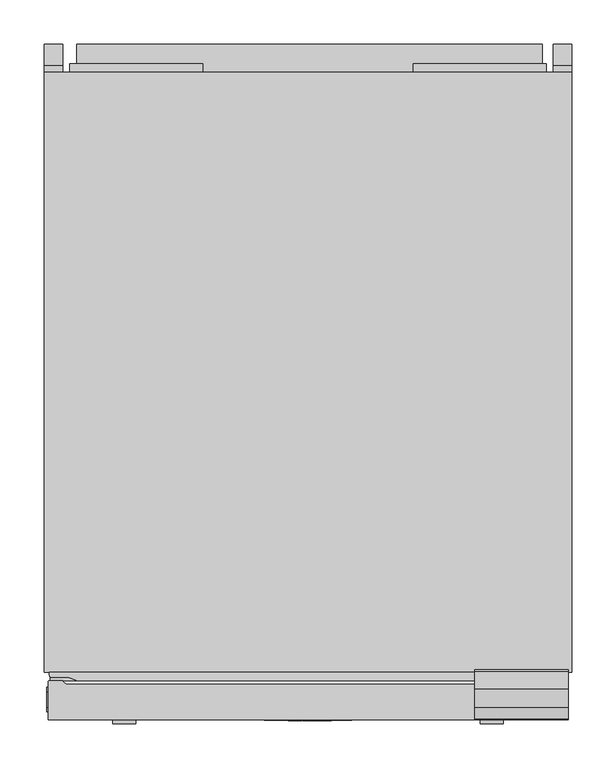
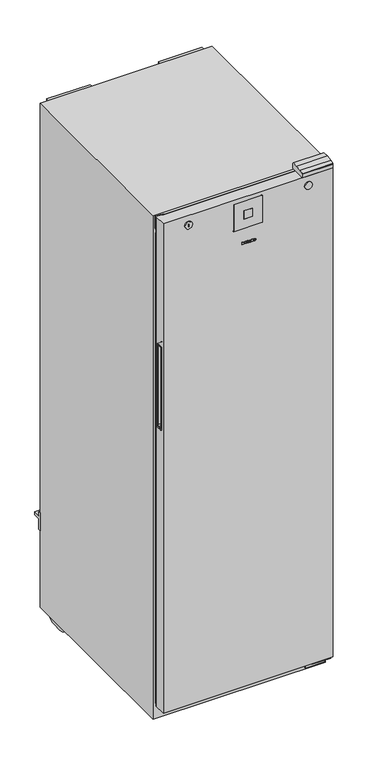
"""IFC4 building model written with IfcOpenShell, lengths in millimetres: proxy geometry, 12537610_OER_KWT4584E_OBSW : 39458451_OER_12537610_KWT4584E_OBSW."""

from ifc_helpers import new_model, si_unit, point, frame, frame_2d, origin, origin_with_axes, place, context, project, spatial, polyline, circle_curve, ellipse_curve, trimmed, segment, composite_curve, outline, extrude, faceted_brep, source, transform, mapped, element, save
from ifc_brep_helpers import plane_surface, cylinder_surface, revolved_surface, extruded_surface, advanced_brep


def specialty_equipment_61aea310(model_context):
    return source(origin(), model_context, "Body", "SolidModel", [
        advanced_brep(
        [(21.288016, -765.8, 1692.896), (21.288016, -765.8, 1693.704), (26.640016, -765.8, 1693.704), (17.328016, -765.8, 1693.704), (19.528016, -765.8, 1691.0), (26.504016, -765.8, 1692.896), (24.088016, -765.8, 1692.896), (22.184016, -765.8, 1692.0), (21.288016, -765.8, 1694.728), (21.288016, -765.8, 1695.6), (22.656016, -765.8, 1695.6), (22.656016, -765.8, 1694.728), (21.288016, -764.8, 1692.896), (22.184016, -764.8, 1692.0), (24.088016, -764.8, 1692.896), (26.504016, -764.8, 1692.896), (19.528016, -764.8, 1691.0), (17.328016, -764.8, 1693.704), (26.640016, -764.8, 1693.704), (21.288016, -764.8, 1693.704), (21.288016, -764.8, 1694.728), (22.656016, -764.8, 1694.728), (22.656016, -764.8, 1695.6), (21.288016, -764.8, 1695.6)],
        [
            (0, 1),
            (1, 2),
            (2, 3, ellipse_curve(frame((21.984016, -765.8, 1693.704), z_axis=(0.0, -1.0, 0.0), x_axis=(-1.0, 0.0, 0.0)), 4.656, 3.848)),
            (3, 4, circle_curve(frame((20.4240596, -765.8, 1693.976), z_axis=(0.0, -1.0, 0.0), x_axis=(0.0, 0.0, -1.0)), 3.1079688)),
            (4, 5, circle_curve(frame((21.8908096, -765.8, 1696.088), z_axis=(0.0, -1.0, 0.0), x_axis=(0.0, 0.0, -1.0)), 5.6098607)),
            (5, 6),
            (6, 7, circle_curve(frame((22.5750748, -765.8, 1693.64), z_axis=(0.0, 1.0, 0.0), x_axis=(0.0, 0.0, -1.0)), 1.6859795)),
            (7, 0, circle_curve(frame((22.184016, -765.8, 1692.896), z_axis=(0.0, 1.0, 0.0), x_axis=(0.0, 0.0, -1.0)), 0.896)),
            (8, 9),
            (9, 10, circle_curve(frame((21.972016, -765.8, 1695.6), z_axis=(0.0, 1.0, 0.0), x_axis=(0.0, 0.0, -1.0)), 0.684)),
            (10, 11),
            (11, 8),
            (12, 13, circle_curve(frame((22.184016, -764.8, 1692.896), z_axis=(0.0, -1.0, 0.0), x_axis=(0.0, 0.0, -1.0)), 0.896)),
            (13, 14, circle_curve(frame((22.5750748, -764.8, 1693.64), z_axis=(0.0, -1.0, 0.0), x_axis=(0.0, 0.0, -1.0)), 1.6859795)),
            (14, 15),
            (15, 16, circle_curve(frame((21.8908096, -764.8, 1696.088), z_axis=(0.0, 1.0, 0.0), x_axis=(0.0, 0.0, -1.0)), 5.6098607)),
            (16, 17, circle_curve(frame((20.4240596, -764.8, 1693.976), z_axis=(0.0, 1.0, 0.0), x_axis=(0.0, 0.0, -1.0)), 3.1079688)),
            (17, 18, ellipse_curve(frame((21.984016, -764.8, 1693.704), z_axis=(0.0, 1.0, 0.0), x_axis=(-1.0, 0.0, 0.0)), 4.656, 3.848)),
            (18, 19),
            (19, 12),
            (20, 21),
            (21, 22),
            (22, 23, circle_curve(frame((21.972016, -764.8, 1695.6), z_axis=(0.0, -1.0, 0.0), x_axis=(0.0, 0.0, -1.0)), 0.684)),
            (23, 20),
            (0, 12),
            (19, 1),
            (18, 2),
            (5, 15),
            (14, 6),
            (17, 3),
            (13, 7),
            (16, 4),
            (8, 20),
            (23, 9),
            (22, 10),
            (21, 11),
        ],
        [
            plane_surface(frame((21.288016, -765.8, 1693.704), z_axis=(0.0, -1.0, 0.0), x_axis=(0.0, 0.0, 1.0))),
            plane_surface(frame((21.288016, -764.8, 1693.704), z_axis=(0.0, 1.0, 0.0), x_axis=(0.0, 0.0, -1.0))),
            plane_surface(frame((21.288016, -765.8, 1692.896), z_axis=(1.0, 0.0, 0.0), x_axis=(0.0, 1.0, 0.0))),
            plane_surface(frame((21.288016, -765.8, 1693.704), z_axis=(0.0, 0.0, -1.0), x_axis=(0.0, 1.0, 0.0))),
            plane_surface(frame((26.504016, -765.8, 1692.896), z_axis=(0.0, 0.0, 1.0), x_axis=(0.0, 1.0, 0.0))),
            extruded_surface(trimmed(ellipse_curve(frame((21.984016, -763.8, 1693.704), z_axis=(0.0, -1.0, 0.0), x_axis=(-1.0, 0.0, 0.0)), 4.656, 3.848), [point((26.640016, -763.8, 1693.704))], [point((17.328016, -763.8, 1693.704))], True, "CARTESIAN"), (0.0, -1.0, 0.0), 1.0),
            revolved_surface(polyline([(22.5750748, -764.8, 1691.9540205), (22.5750748, -765.8, 1691.9540205)]), (22.5750748, -764.8, 1693.64), (0.0, 1.0, 0.0)),
            revolved_surface(polyline([(22.184016, -764.8, 1692.0), (22.184016, -765.8, 1692.0)]), (22.184016, -764.8, 1692.896), (0.0, 1.0, 0.0)),
            cylinder_surface(frame((20.4240596, -764.8, 1693.976), z_axis=(0.0, -1.0, 0.0), x_axis=(0.0, 0.0, -1.0)), 3.1079688),
            cylinder_surface(frame((21.8908096, -764.8, 1696.088), z_axis=(0.0, -1.0, 0.0), x_axis=(0.0, 0.0, -1.0)), 5.6098607),
            plane_surface(frame((21.288016, -765.8, 1694.728), z_axis=(1.0, 0.0, 0.0), x_axis=(0.0, 1.0, 0.0))),
            revolved_surface(polyline([(21.972016, -764.8, 1694.916), (21.972016, -765.8, 1694.916)]), (21.972016, -764.8, 1695.6), (0.0, 1.0, 0.0)),
            plane_surface(frame((22.656016, -765.8, 1695.6), z_axis=(-1.0, 0.0, 0.0), x_axis=(0.0, 1.0, 0.0))),
            plane_surface(frame((22.656016, -765.8, 1694.728), z_axis=(0.0, 0.0, 1.0), x_axis=(0.0, 1.0, 0.0))),
        ],
        [
            (0, [[1, 2, 3, 4, 5, 6, 7, 8], [9, 10, 11, 12]]),
            (1, [[13, 14, 15, 16, 17, 18, 19, 20], [21, 22, 23, 24]]),
            (2, [[-1, 25, -20, 26]]),
            (3, [[-2, -26, -19, 27]]),
            (4, [[-6, 28, -15, 29]]),
            (5, [[-3, -27, -18, 30]]),
            (6, [[-7, -29, -14, 31]]),
            (7, [[-8, -31, -13, -25]]),
            (8, [[-4, -30, -17, 32]]),
            (9, [[-5, -32, -16, -28]]),
            (10, [[-9, 33, -24, 34]]),
            (11, [[-10, -34, -23, 35]]),
            (12, [[-11, -35, -22, 36]]),
            (13, [[-12, -36, -21, -33]]),
        ],
    ),
        advanced_brep(
        [(4.592016, -765.8, 1692.896), (4.592016, -765.8, 1693.704), (9.944016, -765.8, 1693.704), (0.632016, -765.8, 1693.704), (2.832016, -765.8, 1691.0), (9.808016, -765.8, 1692.896), (7.392016, -765.8, 1692.896), (5.488016, -765.8, 1692.0), (4.592016, -765.8, 1694.728), (4.592016, -765.8, 1695.6), (5.960016, -765.8, 1695.6), (5.960016, -765.8, 1694.728), (4.592016, -764.8, 1692.896), (5.488016, -764.8, 1692.0), (7.392016, -764.8, 1692.896), (9.808016, -764.8, 1692.896), (2.832016, -764.8, 1691.0), (0.632016, -764.8, 1693.704), (9.944016, -764.8, 1693.704), (4.592016, -764.8, 1693.704), (4.592016, -764.8, 1694.728), (5.960016, -764.8, 1694.728), (5.960016, -764.8, 1695.6), (4.592016, -764.8, 1695.6)],
        [
            (0, 1),
            (1, 2),
            (2, 3, ellipse_curve(frame((5.288016, -765.8, 1693.704), z_axis=(0.0, -1.0, 0.0), x_axis=(-1.0, 0.0, 0.0)), 4.656, 3.848)),
            (3, 4, circle_curve(frame((3.7280596, -765.8, 1693.976), z_axis=(0.0, -1.0, 0.0), x_axis=(0.0, 0.0, -1.0)), 3.1079688)),
            (4, 5, circle_curve(frame((5.1948096, -765.8, 1696.088), z_axis=(0.0, -1.0, 0.0), x_axis=(0.0, 0.0, -1.0)), 5.6098607)),
            (5, 6),
            (6, 7, circle_curve(frame((5.8790748, -765.8, 1693.64), z_axis=(0.0, 1.0, 0.0), x_axis=(0.0, 0.0, -1.0)), 1.6859795)),
            (7, 0, circle_curve(frame((5.488016, -765.8, 1692.896), z_axis=(0.0, 1.0, 0.0), x_axis=(0.0, 0.0, -1.0)), 0.896)),
            (8, 9),
            (9, 10, circle_curve(frame((5.276016, -765.8, 1695.6), z_axis=(0.0, 1.0, 0.0), x_axis=(0.0, 0.0, -1.0)), 0.684)),
            (10, 11),
            (11, 8),
            (12, 13, circle_curve(frame((5.488016, -764.8, 1692.896), z_axis=(0.0, -1.0, 0.0), x_axis=(0.0, 0.0, -1.0)), 0.896)),
            (13, 14, circle_curve(frame((5.8790748, -764.8, 1693.64), z_axis=(0.0, -1.0, 0.0), x_axis=(0.0, 0.0, -1.0)), 1.6859795)),
            (14, 15),
            (15, 16, circle_curve(frame((5.1948096, -764.8, 1696.088), z_axis=(0.0, 1.0, 0.0), x_axis=(0.0, 0.0, -1.0)), 5.6098607)),
            (16, 17, circle_curve(frame((3.7280596, -764.8, 1693.976), z_axis=(0.0, 1.0, 0.0), x_axis=(0.0, 0.0, -1.0)), 3.1079688)),
            (17, 18, ellipse_curve(frame((5.288016, -764.8, 1693.704), z_axis=(0.0, 1.0, 0.0), x_axis=(-1.0, 0.0, 0.0)), 4.656, 3.848)),
            (18, 19),
            (19, 12),
            (20, 21),
            (21, 22),
            (22, 23, circle_curve(frame((5.276016, -764.8, 1695.6), z_axis=(0.0, -1.0, 0.0), x_axis=(0.0, 0.0, -1.0)), 0.684)),
            (23, 20),
            (0, 12),
            (19, 1),
            (18, 2),
            (5, 15),
            (14, 6),
            (17, 3),
            (13, 7),
            (16, 4),
            (8, 20),
            (23, 9),
            (22, 10),
            (21, 11),
        ],
        [
            plane_surface(frame((4.592016, -765.8, 1693.704), z_axis=(0.0, -1.0, 0.0), x_axis=(0.0, 0.0, 1.0))),
            plane_surface(frame((4.592016, -764.8, 1693.704), z_axis=(0.0, 1.0, 0.0), x_axis=(0.0, 0.0, -1.0))),
            plane_surface(frame((4.592016, -765.8, 1692.896), z_axis=(1.0, 0.0, 0.0), x_axis=(0.0, 1.0, 0.0))),
            plane_surface(frame((4.592016, -765.8, 1693.704), z_axis=(0.0, 0.0, -1.0), x_axis=(0.0, 1.0, 0.0))),
            plane_surface(frame((9.808016, -765.8, 1692.896), z_axis=(0.0, 0.0, 1.0), x_axis=(0.0, 1.0, 0.0))),
            extruded_surface(trimmed(ellipse_curve(frame((5.288016, -763.8, 1693.704), z_axis=(0.0, -1.0, 0.0), x_axis=(-1.0, 0.0, 0.0)), 4.656, 3.848), [point((9.944016, -763.8, 1693.704))], [point((0.632016, -763.8, 1693.704))], True, "CARTESIAN"), (0.0, -1.0, 0.0), 1.0),
            revolved_surface(polyline([(5.8790748, -764.8, 1691.9540205), (5.8790748, -765.8, 1691.9540205)]), (5.8790748, -764.8, 1693.64), (0.0, 1.0, 0.0)),
            revolved_surface(polyline([(5.488016, -764.8, 1692.0), (5.488016, -765.8, 1692.0)]), (5.488016, -764.8, 1692.896), (0.0, 1.0, 0.0)),
            cylinder_surface(frame((3.7280596, -764.8, 1693.976), z_axis=(0.0, -1.0, 0.0), x_axis=(0.0, 0.0, -1.0)), 3.1079688),
            cylinder_surface(frame((5.1948096, -764.8, 1696.088), z_axis=(0.0, -1.0, 0.0), x_axis=(0.0, 0.0, -1.0)), 5.6098607),
            plane_surface(frame((4.592016, -765.8, 1694.728), z_axis=(1.0, 0.0, 0.0), x_axis=(0.0, 1.0, 0.0))),
            revolved_surface(polyline([(5.276016, -764.8, 1694.916), (5.276016, -765.8, 1694.916)]), (5.276016, -764.8, 1695.6), (0.0, 1.0, 0.0)),
            plane_surface(frame((5.960016, -765.8, 1695.6), z_axis=(-1.0, 0.0, 0.0), x_axis=(0.0, 1.0, 0.0))),
            plane_surface(frame((5.960016, -765.8, 1694.728), z_axis=(0.0, 0.0, 1.0), x_axis=(0.0, 1.0, 0.0))),
        ],
        [
            (0, [[1, 2, 3, 4, 5, 6, 7, 8], [9, 10, 11, 12]]),
            (1, [[13, 14, 15, 16, 17, 18, 19, 20], [21, 22, 23, 24]]),
            (2, [[-1, 25, -20, 26]]),
            (3, [[-2, -26, -19, 27]]),
            (4, [[-6, 28, -15, 29]]),
            (5, [[-3, -27, -18, 30]]),
            (6, [[-7, -29, -14, 31]]),
            (7, [[-8, -31, -13, -25]]),
            (8, [[-4, -30, -17, 32]]),
            (9, [[-5, -32, -16, -28]]),
            (10, [[-9, 33, -24, 34]]),
            (11, [[-10, -34, -23, 35]]),
            (12, [[-11, -35, -22, 36]]),
            (13, [[-12, -36, -21, -33]]),
        ],
    ),
        extrude(outline(polyline([(1698.528, -4.151984), (1697.232, -3.543984), (1698.496, -0.831984), (1699.792, -1.431984), (1698.528, -4.151984)])), frame((0.0, -765.8, 0.0), z_axis=(0.0, 1.0, 0.0), x_axis=(0.0, 0.0, 1.0)), (0.0, 0.0, 1.0), 1.0),
        extrude(outline(polyline([(1697.056, -6.127984), (1695.624, -6.127984), (1695.624, -5.175984), (1692.344, -5.175984), (1692.344, -6.127984), (1691.0, -6.127984), (1691.0, 0.184016), (1692.344, 0.184016), (1692.344, -0.743984), (1697.056, -0.743984), (1697.056, -6.127984)])), frame((0.0, -765.8, 0.0), z_axis=(0.0, 1.0, 0.0), x_axis=(0.0, 0.0, 1.0)), (0.0, 0.0, 1.0), 1.0),
        extrude(outline(polyline([(1697.696, 10.392016), (1697.696, 11.352016), (1692.344, 11.352016), (1692.344, 10.392016), (1691.0, 10.392016), (1691.0, 16.880016), (1692.344, 16.880016), (1692.344, 15.896016), (1699.0, 15.896016), (1699.0, 10.392016), (1697.696, 10.392016)])), frame((0.0, -765.8, 0.0), z_axis=(0.0, 1.0, 0.0), x_axis=(0.0, 0.0, 1.0)), (0.0, 0.0, 1.0), 1.0),
        extrude(outline(polyline([(1697.696, -22.071984), (1697.696, -21.103984), (1692.344, -21.103984), (1692.344, -22.071984), (1691.0, -22.071984), (1691.0, -18.551984), (1692.344, -18.551984), (1692.344, -19.511984), (1695.7471247, -19.511984), (1691.0, -15.935984), (1695.8152223, -12.343984), (1692.344, -12.343984), (1692.344, -13.327984), (1691.0, -13.327984), (1691.0, -6.943984), (1692.344, -6.943984), (1692.344, -7.959984), (1697.696, -7.959984), (1697.696, -6.943984), (1699.0, -6.943984), (1699.0, -11.815984), (1696.0, -14.151984), (1699.0, -16.495984), (1699.0, -22.071984), (1697.696, -22.071984)])), frame((0.0, -765.8, 0.0), z_axis=(0.0, 1.0, 0.0), x_axis=(0.0, 0.0, 1.0)), (0.0, 0.0, 1.0), 1.0),
        extrude(outline(composite_curve([segment(polyline([(260.3303025, -720.2869385), (-260.3238209, -720.2869385)]), True, "CONTINUOUS"), segment(trimmed(circle_curve(frame_2d((-260.44591, -714.3630875)), 5.9251089), [point((-260.3238209, -720.2869385))], [point((-262.4708007, -719.9314566))], False, "CARTESIAN"), True, "CONTINUOUS"), segment(polyline([(-262.4708007, -719.9314566), (-271.5667859, -716.6237776)]), True, "CONTINUOUS"), segment(trimmed(circle_curve(frame_2d((-273.2756141, -721.3229876)), 5.0002667), [point((-271.5667859, -716.6237776))], [point((-273.2756141, -716.3227208))], True, "CARTESIAN"), True, "CONTINUOUS"), segment(polyline([(-273.2756141, -716.3227208), (-290.5040257, -716.3227208)]), True, "CONTINUOUS"), segment(trimmed(circle_curve(frame_2d((-290.5040257, -714.3174705)), 2.0052503), [point((-290.5040257, -716.3227208))], [point((-292.509276, -714.3174705))], False, "CARTESIAN"), True, "CONTINUOUS"), segment(polyline([(-292.509276, -714.3174705), (-292.509276, -710.8), (292.509276, -710.8), (292.509276, -714.3756553)]), True, "CONTINUOUS"), segment(trimmed(circle_curve(frame_2d((290.5363621, -714.3756553)), 1.9729139), [point((292.509276, -714.3756553))], [point((290.3912088, -716.3432223))], False, "CARTESIAN"), True, "CONTINUOUS"), segment(polyline([(290.3912088, -716.3432223), (285.9802856, -716.0942743), (267.1795756, -718.180628), (262.3907072, -719.9236335)]), True, "CONTINUOUS"), segment(trimmed(circle_curve(frame_2d((260.3303025, -714.2627182)), 6.0242203), [point((262.3907072, -719.9236335))], [point((260.3303025, -720.2869385))], False, "CARTESIAN"), True, "CONTINUOUS")], self_intersect=False)), frame((0.0, 0.0, 1811.9923609), z_axis=(0.0, 0.0, 1.0), x_axis=(1.0, 0.0, 0.0)), (0.0, 0.0, 1.0), 49.0076391),
        extrude(outline(composite_curve([segment(polyline([(-174.7039849, 85.0), (-84.7744034, 85.0), (-84.7744034, 10.0)]), True, "CONTINUOUS"), segment(trimmed(circle_curve(frame_2d((-112.4685723, 43.3483493)), 43.3483493), [point((-84.7744034, 10.0))], [point((-112.4685723, 0.0))], False, "CARTESIAN"), True, "CONTINUOUS"), segment(polyline([(-112.4685723, 0.0), (-146.8130598, 0.0)]), True, "CONTINUOUS"), segment(trimmed(circle_curve(frame_2d((-146.8130598, 43.8951852)), 43.8951852), [point((-146.8130598, 0.0))], [point((-174.7039849, 10.0))], False, "CARTESIAN"), True, "CONTINUOUS"), segment(polyline([(-174.7039849, 10.0), (-174.7039849, 85.0)]), True, "CONTINUOUS")], self_intersect=False)), frame((-296.748385, 0.0, 0.0), z_axis=(1.0, 0.0, 0.0), x_axis=(0.0, 1.0, 0.0)), (0.0, 0.0, 1.0), 26.1483484),
        extrude(outline(composite_curve([segment(polyline([(-174.7039849, 85.0), (-84.7744034, 85.0), (-84.7744034, 10.0)]), True, "CONTINUOUS"), segment(trimmed(circle_curve(frame_2d((-112.4685723, 43.3483493)), 43.3483493), [point((-84.7744034, 10.0))], [point((-112.4685723, 0.0))], False, "CARTESIAN"), True, "CONTINUOUS"), segment(polyline([(-112.4685723, 0.0), (-146.8130598, 0.0)]), True, "CONTINUOUS"), segment(trimmed(circle_curve(frame_2d((-146.8130598, 43.8951852)), 43.8951852), [point((-146.8130598, 0.0))], [point((-174.7039849, 10.0))], False, "CARTESIAN"), True, "CONTINUOUS"), segment(polyline([(-174.7039849, 10.0), (-174.7039849, 85.0)]), True, "CONTINUOUS")], self_intersect=False)), frame((270.6000366, 0.0, 0.0), z_axis=(1.0, 0.0, 0.0), x_axis=(0.0, 1.0, 0.0)), (0.0, 0.0, 1.0), 26.1483484),
        extrude(outline(polyline([(-24.2050924, 295.6199469), (-32.0, 295.6199469), (-32.0, 359.9980469), (-24.2050924, 359.9980469), (-24.2050924, 344.8226935), (0.0, 344.8226935), (0.0, 334.8226935), (-24.2050924, 334.8226935), (-24.2050924, 295.6199469)])), frame((-298.5, 0.0, 0.0), z_axis=(1.0, 0.0, 0.0), x_axis=(0.0, 1.0, 0.0)), (0.0, 0.0, 1.0), 20.9682617),
        extrude(outline(polyline([(-24.2050924, 295.6199469), (-32.0, 295.6199469), (-32.0, 359.9980469), (-24.2050924, 359.9980469), (-24.2050924, 344.8226935), (0.0, 344.8226935), (0.0, 334.8226935), (-24.2050924, 334.8226935), (-24.2050924, 295.6199469)])), frame((277.5317383, 0.0, 0.0), z_axis=(1.0, 0.0, 0.0), x_axis=(0.0, 1.0, 0.0)), (0.0, 0.0, 1.0), 20.9682617),
        faceted_brep([(298.5, -32.0, 1861.0), (-298.5, -32.0, 1861.0), (-298.5, -710.8, 1861.0), (298.5, -710.8, 1861.0), (298.5, -32.0, 15.0), (298.5, -710.8, 15.0), (-298.5, -710.8, 15.0), (-298.5, -32.0, 15.0), (-238.5, -710.8, 1771.4289551), (238.5, -710.8, 1771.4289551), (238.5, -710.8, 89.0), (-238.5, -710.8, 89.0), (238.5, -83.343928, 1771.4289551), (-238.5, -83.343928, 1771.4289551), (-238.5, -83.343928, 89.0), (238.5, -83.343928, 89.0)], [[[0, 1, 2, 3]], [[4, 5, 6, 7]], [[1, 0, 4, 7]], [[2, 1, 7, 6]], [[3, 2, 6, 5], [8, 9, 10, 11]], [[0, 3, 5, 4]], [[12, 13, 14, 15]], [[13, 12, 9, 8]], [[14, 13, 8, 11]], [[15, 14, 11, 10]], [[12, 15, 10, 9]]]),
        extrude(outline(polyline([(265.1, -32.0), (-261.7, -32.0), (-261.7, 0.0), (265.1, 0.0), (265.1, -32.0)])), frame((0.0, 0.0, 311.4613342), z_axis=(0.0, 0.0, 1.0), x_axis=(1.0, 0.0, 0.0)), (0.0, 0.0, 1.0), 1260.9136658),
        extrude(outline(composite_curve([segment(trimmed(circle_curve(frame_2d((238.5, -673.3)), 12.0), [point((226.5, -673.3))], [point((250.5, -673.3))], False, "CARTESIAN"), True, "CONTINUOUS"), segment(trimmed(circle_curve(frame_2d((238.5, -673.3)), 12.0), [point((250.5, -673.3))], [point((226.5, -673.3))], False, "CARTESIAN"), True, "CONTINUOUS")], self_intersect=False)), origin_with_axes(), (0.0, 0.0, 1.0), 4.8499999),
        extrude(outline(composite_curve([segment(trimmed(circle_curve(frame_2d((-238.5, -673.3)), 12.0), [point((-250.5, -673.3))], [point((-226.5, -673.3))], False, "CARTESIAN"), True, "CONTINUOUS"), segment(trimmed(circle_curve(frame_2d((-238.5, -673.3)), 12.0), [point((-226.5, -673.3))], [point((-250.5, -673.3))], False, "CARTESIAN"), True, "CONTINUOUS")], self_intersect=False)), origin_with_axes(), (0.0, 0.0, 1.0), 4.8499999),
        extrude(outline(composite_curve([segment(trimmed(circle_curve(frame_2d((238.5, -673.3)), 6.5052807), [point((231.9947193, -673.3))], [point((245.0052807, -673.3))], False, "CARTESIAN"), True, "CONTINUOUS"), segment(trimmed(circle_curve(frame_2d((238.5, -673.3)), 6.5052807), [point((245.0052807, -673.3))], [point((231.9947193, -673.3))], False, "CARTESIAN"), True, "CONTINUOUS")], self_intersect=False)), frame((0.0, 0.0, 4.8499999), z_axis=(0.0, 0.0, 1.0), x_axis=(1.0, 0.0, 0.0)), (0.0, 0.0, 1.0), 10.1500001),
        extrude(outline(composite_curve([segment(trimmed(circle_curve(frame_2d((-238.5, -673.3)), 6.5052807), [point((-245.0052807, -673.3))], [point((-231.9947193, -673.3))], False, "CARTESIAN"), True, "CONTINUOUS"), segment(trimmed(circle_curve(frame_2d((-238.5, -673.3)), 6.5052807), [point((-231.9947193, -673.3))], [point((-245.0052807, -673.3))], False, "CARTESIAN"), True, "CONTINUOUS")], self_intersect=False)), frame((0.0, 0.0, 4.8499999), z_axis=(0.0, 0.0, 1.0), x_axis=(1.0, 0.0, 0.0)), (0.0, 0.0, 1.0), 10.1500001),
        extrude(outline(composite_curve([segment(polyline([(-77.4661946, 15.0), (-54.5459203, 15.0)]), True, "CONTINUOUS"), segment(trimmed(circle_curve(frame_2d((-66.0060575, 21.8267301)), 13.3393773), [point((-54.5459203, 15.0))], [point((-77.4661946, 15.0))], False, "CARTESIAN"), True, "CONTINUOUS")], self_intersect=False)), frame((214.5, 0.0, 0.0), z_axis=(1.0, 0.0, 0.0), x_axis=(0.0, 1.0, 0.0)), (0.0, 0.0, 1.0), 23.0),
        extrude(outline(composite_curve([segment(polyline([(-77.4661946, 15.0), (-54.5459203, 15.0)]), True, "CONTINUOUS"), segment(trimmed(circle_curve(frame_2d((-66.0060575, 21.8267301)), 13.3393773), [point((-54.5459203, 15.0))], [point((-77.4661946, 15.0))], False, "CARTESIAN"), True, "CONTINUOUS")], self_intersect=False)), frame((-237.5, 0.0, 0.0), z_axis=(1.0, 0.0, 0.0), x_axis=(0.0, 1.0, 0.0)), (0.0, 0.0, 1.0), 23.0),
        extrude(outline(polyline([(-118.8940533, -32.0), (-269.5, -32.0), (-269.5, -21.9869385), (-118.8940533, -21.9869385), (-118.8940533, -32.0)])), frame((0.0, 0.0, 1819.3465251), z_axis=(0.0, 0.0, 1.0), x_axis=(1.0, 0.0, 0.0)), (0.0, 0.0, 1.0), 41.6534749),
        extrude(outline(polyline([(269.5, -32.0), (118.8940533, -32.0), (118.8940533, -21.9869385), (269.5, -21.9869385), (269.5, -32.0)])), frame((0.0, 0.0, 1819.3465251), z_axis=(0.0, 0.0, 1.0), x_axis=(1.0, 0.0, 0.0)), (0.0, 0.0, 1.0), 41.6534749),
        extrude(outline(polyline([(143.6302282, 242.4018082), (151.666733, 242.4018082), (151.666733, 236.6255704), (150.6621699, 236.6255704), (150.6621699, 241.3972451), (148.2763325, 241.3972451), (148.2763325, 236.8767112), (147.2717694, 236.8767112), (147.2717694, 241.3972451), (144.6347913, 241.3972451), (144.6347913, 236.5), (143.6302282, 236.5), (143.6302282, 242.4018082)])), frame((0.0, -2.0, 0.0), z_axis=(0.0, 1.0, 0.0), x_axis=(0.0, 0.0, 1.0)), (0.0, 0.0, 1.0), 1.0),
        extrude(outline(polyline([(143.6302282, 234.9931553), (151.666733, 234.9931553), (151.666733, 233.9885922), (144.6347913, 233.9885922), (144.6347913, 229.9703398), (143.6302282, 229.9703398), (143.6302282, 234.9931553)])), frame((0.0, -2.0, 0.0), z_axis=(0.0, 1.0, 0.0), x_axis=(0.0, 0.0, 1.0)), (0.0, 0.0, 1.0), 1.0),
        extrude(outline(composite_curve([segment(trimmed(circle_curve(frame_2d((147.612854, 236.5)), 8.0), [point((147.612854, 228.5))], [point((147.612854, 244.5))], False, "CARTESIAN"), True, "CONTINUOUS"), segment(trimmed(circle_curve(frame_2d((147.612854, 236.5)), 8.0), [point((147.612854, 244.5))], [point((147.612854, 228.5))], False, "CARTESIAN"), True, "CONTINUOUS")], self_intersect=False)), frame((0.0, -32.0, 0.0), z_axis=(0.0, 1.0, 0.0), x_axis=(0.0, 0.0, 1.0)), (0.0, 0.0, 1.0), 30.0),
        extrude(outline(composite_curve([segment(trimmed(circle_curve(frame_2d((-750.2778084, 1103.581665)), 5.0), [point((-750.2778084, 1098.581665))], [point((-755.2778084, 1103.581665))], False, "CARTESIAN"), True, "CONTINUOUS"), segment(polyline([(-755.2778084, 1103.581665), (-755.2778084, 1398.6172446)]), True, "CONTINUOUS"), segment(trimmed(circle_curve(frame_2d((-750.2778084, 1398.6172446)), 5.0), [point((-755.2778084, 1398.6172446))], [point((-750.2778084, 1403.6172446))], False, "CARTESIAN"), True, "CONTINUOUS"), segment(polyline([(-750.2778084, 1403.6172446), (-732.5520859, 1403.6172446)]), True, "CONTINUOUS"), segment(trimmed(circle_curve(frame_2d((-732.5520859, 1398.6172446)), 5.0), [point((-732.5520859, 1403.6172446))], [point((-727.5520859, 1398.6172446))], False, "CARTESIAN"), True, "CONTINUOUS"), segment(polyline([(-727.5520859, 1398.6172446), (-727.5520859, 1103.581665)]), True, "CONTINUOUS"), segment(trimmed(circle_curve(frame_2d((-732.5520859, 1103.581665)), 5.0), [point((-727.5520859, 1103.581665))], [point((-732.5520859, 1098.581665))], False, "CARTESIAN"), True, "CONTINUOUS"), segment(polyline([(-732.5520859, 1098.581665), (-750.2778084, 1098.581665)]), True, "CONTINUOUS")], self_intersect=False), holes=[polyline([(-750.2651496, 1399.5537109), (-750.2651496, 1102.581665), (-732.5520859, 1102.581665), (-732.5520859, 1399.5537109), (-750.2651496, 1399.5537109)])]), frame((-295.5000916, 0.0, 0.0), z_axis=(1.0, 0.0, 0.0), x_axis=(0.0, 1.0, 0.0)), (0.0, 0.0, 1.0), 1.5000916),
        extrude(outline(polyline([(-754.065255, 59.0), (-754.065255, 64.0), (-721.7521934, 64.0), (-713.9740176, 60.7781754), (-710.8, 53.1154163), (-710.8, 21.3999996), (-715.752192, 21.3999996), (-715.752192, 53.0), (-717.509551, 57.2426414), (-721.7521915, 59.0), (-754.065255, 59.0)])), frame((227.0, 0.0, 0.0), z_axis=(1.0, 0.0, 0.0), x_axis=(0.0, 1.0, 0.0)), (0.0, 0.0, 1.0), 66.0),
        extrude(outline(polyline([(14.9572484, -764.8), (-15.0427516, -764.8), (-15.0427516, -760.810437), (14.9572484, -760.810437), (14.9572484, -764.8)])), frame((0.0, 0.0, 1782.0721304), z_axis=(0.0, 0.0, 1.0), x_axis=(1.0, 0.0, 0.0)), (0.0, 0.0, 1.0), 30.0),
        extrude(outline(composite_curve([segment(polyline([(1846.7674561, 48.6999969), (1846.7674561, -48.7000046)]), True, "CONTINUOUS"), segment(trimmed(circle_curve(frame_2d((1845.7674561, -48.7000046)), 1.0), [point((1846.7674561, -48.7000046))], [point((1845.7674561, -49.7000046))], False, "CARTESIAN"), True, "CONTINUOUS"), segment(polyline([(1845.7674561, -49.7000046), (1748.3675537, -49.7000046)]), True, "CONTINUOUS"), segment(trimmed(circle_curve(frame_2d((1748.3675537, -48.7000046)), 1.0), [point((1748.3675537, -49.7000046))], [point((1747.3675537, -48.7000046))], False, "CARTESIAN"), True, "CONTINUOUS"), segment(polyline([(1747.3675537, -48.7000046), (1747.3675537, 48.6999969)]), True, "CONTINUOUS"), segment(trimmed(circle_curve(frame_2d((1748.3675537, 48.6999969)), 1.0), [point((1747.3675537, 48.6999969))], [point((1748.3675537, 49.6999969))], False, "CARTESIAN"), True, "CONTINUOUS"), segment(polyline([(1748.3675537, 49.6999969), (1845.7674561, 49.6999969)]), True, "CONTINUOUS"), segment(trimmed(circle_curve(frame_2d((1845.7674561, 48.6999969)), 1.0), [point((1845.7674561, 49.6999969))], [point((1846.7674561, 48.6999969))], False, "CARTESIAN"), True, "CONTINUOUS")], self_intersect=False), holes=[polyline([(1782.0721304, 14.9572484), (1782.0721304, -15.0427516), (1812.0721304, -15.0427516), (1812.0721304, 14.9572484), (1782.0721304, 14.9572484)])]), frame((0.0, -764.8, 0.0), z_axis=(0.0, 1.0, 0.0), x_axis=(0.0, 0.0, 1.0)), (0.0, 0.0, 1.0), 3.989563),
        extrude(outline(composite_curve([segment(trimmed(circle_curve(frame_2d((278.1342421, -743.3588504)), 12.036577), [point((266.0976651, -743.3588504))], [point((290.1708191, -743.3588504))], False, "CARTESIAN"), True, "CONTINUOUS"), segment(trimmed(circle_curve(frame_2d((278.1342421, -743.3588504)), 12.036577), [point((290.1708191, -743.3588504))], [point((266.0976651, -743.3588504))], False, "CARTESIAN"), True, "CONTINUOUS")], self_intersect=False)), frame((0.0, 0.0, 64.0), z_axis=(0.0, 0.0, 1.0), x_axis=(1.0, 0.0, 0.0)), (0.0, 0.0, 1.0), 5.0),
        extrude(outline(polyline([(-764.8, 1861.9999756), (-764.8, 1874.3047493), (-763.284946, 1876.6290621), (-750.3336628, 1880.7289483), (-729.4521961, 1883.5), (-709.7315334, 1883.5), (-708.0521952, 1881.1846963), (-708.0521952, 1861.9999756), (-764.8, 1861.9999756)])), frame((188.6006191, 0.0, 0.0), z_axis=(1.0, 0.0, 0.0), x_axis=(0.0, 1.0, 0.0)), (0.0, 0.0, 1.0), 106.122831),
        advanced_brep(
        [(294.0, -764.8, 1861.9999756), (294.0, -721.7869385, 1861.9999756), (292.5, -720.2869385, 1861.9999756), (278.5456807, -720.2869385, 1861.9999756), (277.2728238, -720.814173, 1861.9999756), (273.8000584, -724.2869385, 1861.9999756), (-273.8000584, -724.2869385, 1861.9999756), (-277.2728238, -720.814173, 1861.9999756), (-278.5456807, -720.2869385, 1861.9999756), (-292.5, -720.2869385, 1861.9999756), (-294.0, -721.7869385, 1861.9999756), (-294.0, -764.8, 1861.9999756), (294.0, -764.8, 69.0), (-294.0, -764.8, 69.0), (-294.0, -721.7869385, 69.0), (-292.5, -720.2869385, 69.0), (-278.5456807, -720.2869385, 69.0), (-277.2728238, -720.814173, 69.0), (-273.8000584, -724.2869385, 69.0), (273.8000584, -724.2869385, 69.0), (277.2728238, -720.814173, 69.0), (278.5456807, -720.2869385, 69.0), (292.5, -720.2869385, 69.0), (294.0, -721.7869385, 69.0), (-294.0, -755.2651489, 1398.544651), (-294.0, -755.2651489, 1103.581665), (-294.0, -750.2651489, 1098.581665), (-294.0, -732.3192405, 1098.581665), (-294.0, -727.3192405, 1103.581665), (-294.0, -727.3192405, 1398.544651), (-294.0, -732.3192405, 1403.544651), (-294.0, -750.2651489, 1403.544651), (-48.7000046, -764.8, 1846.7674561), (48.6999969, -764.8, 1846.7674561), (49.6999969, -764.8, 1845.7674561), (49.6999969, -764.8, 1748.3675537), (48.6999969, -764.8, 1747.3675537), (-48.7000046, -764.8, 1747.3675537), (-49.7000046, -764.8, 1748.3675537), (-49.7000046, -764.8, 1845.7674561), (48.6999969, -760.810437, 1846.7674561), (-48.7000046, -760.810437, 1846.7674561), (-49.7000046, -760.810437, 1845.7674561), (-49.7000046, -760.810437, 1748.3675537), (-48.7000046, -760.810437, 1747.3675537), (48.6999969, -760.810437, 1747.3675537), (49.6999969, -760.810437, 1748.3675537), (49.6999969, -760.810437, 1845.7674561), (-277.9342299, -750.2651489, 1403.544651), (-277.9342299, -732.3192405, 1403.544651), (-277.9342299, -727.3192405, 1398.544651), (-277.9342299, -727.3192405, 1103.581665), (-277.9342299, -732.3192405, 1098.581665), (-277.9342299, -750.2651489, 1098.581665), (-277.9342299, -755.2651489, 1103.581665), (-277.9342299, -755.2651489, 1398.544651)],
        [
            (0, 1),
            (1, 2, circle_curve(frame((292.5, -721.7869385, 1861.9999756), z_axis=(0.0, 0.0, 1.0), x_axis=(1.0, 0.0, 0.0)), 1.5)),
            (2, 3),
            (3, 4, circle_curve(frame((278.5456807, -722.0870299, 1861.9999756), z_axis=(0.0, 0.0, 1.0), x_axis=(1.0, 0.0, 0.0)), 1.8000914)),
            (4, 5),
            (5, 6),
            (6, 7),
            (7, 8, circle_curve(frame((-278.5456807, -722.0870299, 1861.9999756), z_axis=(0.0, 0.0, 1.0), x_axis=(1.0, 0.0, 0.0)), 1.8000914)),
            (8, 9),
            (9, 10, circle_curve(frame((-292.5, -721.7869385, 1861.9999756), z_axis=(0.0, 0.0, 1.0), x_axis=(1.0, 0.0, 0.0)), 1.5)),
            (10, 11),
            (11, 0),
            (12, 13),
            (13, 14),
            (14, 15, circle_curve(frame((-292.5, -721.7869385, 69.0), z_axis=(0.0, 0.0, -1.0), x_axis=(1.0, 0.0, 0.0)), 1.5)),
            (15, 16),
            (16, 17, circle_curve(frame((-278.5456807, -722.0870299, 69.0), z_axis=(0.0, 0.0, -1.0), x_axis=(1.0, 0.0, 0.0)), 1.8000914)),
            (17, 18),
            (18, 19),
            (19, 20),
            (20, 21, circle_curve(frame((278.5456807, -722.0870299, 69.0), z_axis=(0.0, 0.0, -1.0), x_axis=(1.0, 0.0, 0.0)), 1.8000914)),
            (21, 22),
            (22, 23, circle_curve(frame((292.5, -721.7869385, 69.0), z_axis=(0.0, 0.0, -1.0), x_axis=(1.0, 0.0, 0.0)), 1.5)),
            (23, 12),
            (0, 12),
            (23, 1),
            (22, 2),
            (21, 3),
            (20, 4),
            (19, 5),
            (18, 6),
            (17, 7),
            (16, 8),
            (15, 9),
            (14, 10),
            (13, 11),
            (24, 25),
            (25, 26, circle_curve(frame((-294.0, -750.2651489, 1103.581665), z_axis=(1.0, 0.0, 0.0), x_axis=(0.0, 1.0, 0.0)), 5.0)),
            (26, 27),
            (27, 28, circle_curve(frame((-294.0, -732.3192405, 1103.581665), z_axis=(1.0, 0.0, 0.0), x_axis=(0.0, 1.0, 0.0)), 5.0)),
            (28, 29),
            (29, 30, circle_curve(frame((-294.0, -732.3192405, 1398.544651), z_axis=(1.0, 0.0, 0.0), x_axis=(0.0, 1.0, 0.0)), 5.0)),
            (30, 31),
            (31, 24, circle_curve(frame((-294.0, -750.2651489, 1398.544651), z_axis=(1.0, 0.0, 0.0), x_axis=(0.0, 1.0, 0.0)), 5.0)),
            (32, 33),
            (33, 34, circle_curve(frame((48.6999969, -764.8, 1845.7674561), z_axis=(0.0, 1.0, 0.0), x_axis=(1.0, 0.0, 0.0)), 1.0)),
            (34, 35),
            (35, 36, circle_curve(frame((48.6999969, -764.8, 1748.3675537), z_axis=(0.0, 1.0, 0.0), x_axis=(1.0, 0.0, 0.0)), 1.0)),
            (36, 37),
            (37, 38, circle_curve(frame((-48.7000046, -764.8, 1748.3675537), z_axis=(0.0, 1.0, 0.0), x_axis=(1.0, 0.0, 0.0)), 1.0)),
            (38, 39),
            (39, 32, circle_curve(frame((-48.7000046, -764.8, 1845.7674561), z_axis=(0.0, 1.0, 0.0), x_axis=(1.0, 0.0, 0.0)), 1.0)),
            (40, 41),
            (41, 42, circle_curve(frame((-48.7000046, -760.810437, 1845.7674561), z_axis=(0.0, -1.0, 0.0), x_axis=(1.0, 0.0, 0.0)), 1.0)),
            (42, 43),
            (43, 44, circle_curve(frame((-48.7000046, -760.810437, 1748.3675537), z_axis=(0.0, -1.0, 0.0), x_axis=(1.0, 0.0, 0.0)), 1.0)),
            (44, 45),
            (45, 46, circle_curve(frame((48.6999969, -760.810437, 1748.3675537), z_axis=(0.0, -1.0, 0.0), x_axis=(1.0, 0.0, 0.0)), 1.0)),
            (46, 47),
            (47, 40, circle_curve(frame((48.6999969, -760.810437, 1845.7674561), z_axis=(0.0, -1.0, 0.0), x_axis=(1.0, 0.0, 0.0)), 1.0)),
            (40, 33),
            (32, 41),
            (42, 39),
            (38, 43),
            (44, 37),
            (36, 45),
            (46, 35),
            (34, 47),
            (48, 49),
            (49, 50, circle_curve(frame((-277.9342299, -732.3192405, 1398.544651), z_axis=(-1.0, 0.0, 0.0), x_axis=(0.0, 1.0, 0.0)), 5.0)),
            (50, 51),
            (51, 52, circle_curve(frame((-277.9342299, -732.3192405, 1103.581665), z_axis=(-1.0, 0.0, 0.0), x_axis=(0.0, 1.0, 0.0)), 5.0)),
            (52, 53),
            (53, 54, circle_curve(frame((-277.9342299, -750.2651489, 1103.581665), z_axis=(-1.0, 0.0, 0.0), x_axis=(0.0, 1.0, 0.0)), 5.0)),
            (54, 55),
            (55, 48, circle_curve(frame((-277.9342299, -750.2651489, 1398.544651), z_axis=(-1.0, 0.0, 0.0), x_axis=(0.0, 1.0, 0.0)), 5.0)),
            (54, 25),
            (24, 55),
            (52, 27),
            (26, 53),
            (50, 29),
            (28, 51),
            (48, 31),
            (30, 49),
        ],
        [
            plane_surface(frame((294.0, -764.8, 1861.9999756), z_axis=(0.0, 0.0, 1.0), x_axis=(0.0, 1.0, 0.0))),
            plane_surface(frame((294.0, -764.8, 69.0), z_axis=(0.0, 0.0, -1.0), x_axis=(0.0, -1.0, 0.0))),
            plane_surface(frame((294.0, -764.8, 1861.9999756), z_axis=(1.0, 0.0, 0.0), x_axis=(0.0, 0.0, -1.0))),
            cylinder_surface(frame((292.5, -721.7869385, 69.0), z_axis=(0.0, 0.0, 1.0), x_axis=(1.0, 0.0, 0.0)), 1.5),
            plane_surface(frame((292.5, -720.2869385, 1861.9999756), z_axis=(-1.5229168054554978e-12, 1.0, 0.0), x_axis=(0.0, 0.0, -1.0))),
            cylinder_surface(frame((278.5456807, -722.0870299, 69.0), z_axis=(0.0, 0.0, 1.0), x_axis=(1.0, 0.0, 0.0)), 1.8000914),
            plane_surface(frame((277.2728238, -720.814173, 1861.9999756), z_axis=(-0.7071067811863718, 0.7071067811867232, 0.0), x_axis=(0.0, 0.0, -1.0))),
            plane_surface(frame((273.8000584, -724.2869385, 1861.9999756), z_axis=(0.0, 1.0, 0.0), x_axis=(0.0, 0.0, -1.0))),
            plane_surface(frame((-273.8000584, -724.2869385, 1861.9999756), z_axis=(0.7071067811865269, 0.7071067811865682, 0.0), x_axis=(0.0, 0.0, -1.0))),
            cylinder_surface(frame((-278.5456807, -722.0870299, 69.0), z_axis=(0.0, 0.0, 1.0), x_axis=(1.0, 0.0, 0.0)), 1.8000914),
            plane_surface(frame((-278.5456807, -720.2869385, 1861.9999756), z_axis=(0.0, 1.0, 0.0), x_axis=(0.0, 0.0, -1.0))),
            cylinder_surface(frame((-292.5, -721.7869385, 69.0), z_axis=(0.0, 0.0, 1.0), x_axis=(1.0, 0.0, 0.0)), 1.5),
            plane_surface(frame((-294.0, -721.7869385, 1861.9999756), z_axis=(-1.0, 0.0, 0.0), x_axis=(0.0, 0.0, -1.0))),
            plane_surface(frame((-294.0, -764.8, 1861.9999756), z_axis=(0.0, -1.0, 0.0), x_axis=(0.0, 0.0, -1.0))),
            plane_surface(frame((-48.7000046, -760.810437, 1846.7674561), z_axis=(0.0, -1.0, 0.0), x_axis=(1.0, 0.0, 0.0))),
            plane_surface(frame((48.6999969, -781.8498952, 1846.7674561), z_axis=(0.0, 0.0, -1.0), x_axis=(0.0, 1.0, 0.0))),
            plane_surface(frame((-49.7000046, -781.8498952, 1845.7674561), z_axis=(1.0, 0.0, 0.0), x_axis=(0.0, 1.0, 0.0))),
            plane_surface(frame((-48.7000046, -781.8498952, 1747.3675537), z_axis=(0.0, 0.0, 1.0), x_axis=(0.0, 1.0, 0.0))),
            plane_surface(frame((49.6999969, -781.8498952, 1748.3675537), z_axis=(-1.0, 0.0, 0.0), x_axis=(0.0, 1.0, 0.0))),
            revolved_surface(polyline([(-47.7000046, -764.8, 1845.7674561), (-47.7000046, -760.810437, 1845.7674561)]), (-48.7000046, -760.810437, 1845.7674561), (0.0, -1.0, 0.0)),
            revolved_surface(polyline([(-47.7000046, -764.8, 1748.3675537), (-47.7000046, -760.810437, 1748.3675537)]), (-48.7000046, -760.810437, 1748.3675537), (0.0, -1.0, 0.0)),
            revolved_surface(polyline([(49.6999969, -764.8, 1748.3675537), (49.6999969, -760.810437, 1748.3675537)]), (48.6999969, -760.810437, 1748.3675537), (0.0, -1.0, 0.0)),
            revolved_surface(polyline([(49.6999969, -764.8, 1845.7674561), (49.6999969, -760.810437, 1845.7674561)]), (48.6999969, -760.810437, 1845.7674561), (0.0, -1.0, 0.0)),
            plane_surface(frame((-277.9342299, -745.2651489, 1398.544651), z_axis=(-1.0, 0.0, 0.0), x_axis=(0.0, 0.0, 1.0))),
            plane_surface(frame((-277.9342299, -755.2651489, 1398.544651), z_axis=(0.0, 1.0, 0.0), x_axis=(-1.0, 0.0, 0.0))),
            plane_surface(frame((-277.9342299, -750.2651489, 1098.581665), z_axis=(0.0, 0.0, 1.0), x_axis=(-1.0, 0.0, 0.0))),
            plane_surface(frame((-277.9342299, -727.3192405, 1103.581665), z_axis=(0.0, -1.0, 0.0), x_axis=(-1.0, 0.0, 0.0))),
            plane_surface(frame((-277.9342299, -732.3192405, 1403.544651), z_axis=(0.0, 0.0, -1.0), x_axis=(-1.0, 0.0, 0.0))),
            revolved_surface(polyline([(-277.9342299, -727.3192405, 1398.544651), (-294.0, -727.3192405, 1398.544651)]), (-452.4641008, -732.3192405, 1398.544651), (1.0, 0.0, 0.0)),
            revolved_surface(polyline([(-277.9342299, -727.3192405, 1103.581665), (-294.0, -727.3192405, 1103.581665)]), (-452.4641008, -732.3192405, 1103.581665), (1.0, 0.0, 0.0)),
            revolved_surface(polyline([(-277.9342299, -745.2651489, 1103.581665), (-294.0, -745.2651489, 1103.581665)]), (-452.4641008, -750.2651489, 1103.581665), (1.0, 0.0, 0.0)),
            revolved_surface(polyline([(-277.9342299, -745.2651489, 1398.544651), (-294.0, -745.2651489, 1398.544651)]), (-452.4641008, -750.2651489, 1398.544651), (1.0, 0.0, 0.0)),
        ],
        [
            (0, [[1, 2, 3, 4, 5, 6, 7, 8, 9, 10, 11, 12]]),
            (1, [[13, 14, 15, 16, 17, 18, 19, 20, 21, 22, 23, 24]]),
            (2, [[-1, 25, -24, 26]]),
            (3, [[-2, -26, -23, 27]]),
            (4, [[-3, -27, -22, 28]]),
            (5, [[-4, -28, -21, 29]]),
            (6, [[-5, -29, -20, 30]]),
            (7, [[-6, -30, -19, 31]]),
            (8, [[-7, -31, -18, 32]]),
            (9, [[-8, -32, -17, 33]]),
            (10, [[-9, -33, -16, 34]]),
            (11, [[-10, -34, -15, 35]]),
            (12, [[-11, -35, -14, 36], [37, 38, 39, 40, 41, 42, 43, 44]]),
            (13, [[-12, -36, -13, -25], [45, 46, 47, 48, 49, 50, 51, 52]]),
            (14, [[53, 54, 55, 56, 57, 58, 59, 60]]),
            (15, [[-53, 61, -45, 62]]),
            (16, [[-55, 63, -51, 64]]),
            (17, [[-57, 65, -49, 66]]),
            (18, [[-59, 67, -47, 68]]),
            (19, [[-54, -62, -52, -63]]),
            (20, [[-56, -64, -50, -65]]),
            (21, [[-58, -66, -48, -67]]),
            (22, [[-60, -68, -46, -61]]),
            (23, [[69, 70, 71, 72, 73, 74, 75, 76]]),
            (24, [[-75, 77, -37, 78]]),
            (25, [[-73, 79, -39, 80]]),
            (26, [[-71, 81, -41, 82]]),
            (27, [[-69, 83, -43, 84]]),
            (28, [[-70, -84, -42, -81]]),
            (29, [[-72, -82, -40, -79]]),
            (30, [[-74, -80, -38, -77]]),
            (31, [[-76, -78, -44, -83]]),
        ],
    ),
        extrude(outline(polyline([(1797.5, 291.7000122), (1797.5, -291.7000122), (73.0, -291.7000122), (73.0, 291.7000122), (1797.5, 291.7000122)]), holes=[polyline([(1739.2571148, 227.194585), (148.0, 227.194585), (148.0, -227.2002923), (1739.2571148, -227.2002923), (1739.2571148, 227.194585)])]), frame((0.0, -720.2869385, 0.0), z_axis=(0.0, 1.0, 0.0), x_axis=(0.0, 0.0, 1.0)), (0.0, 0.0, 1.0), 9.4869385),
        extrude(outline(composite_curve([segment(trimmed(circle_curve(frame_2d((1829.0675049, 208.0)), 13.0), [point((1829.0675049, 221.0))], [point((1829.0675049, 195.0))], False, "CARTESIAN"), True, "CONTINUOUS"), segment(trimmed(circle_curve(frame_2d((1829.0675049, 208.0)), 13.0), [point((1829.0675049, 195.0))], [point((1829.0675049, 221.0))], False, "CARTESIAN"), True, "CONTINUOUS")], self_intersect=False)), frame((0.0, -768.8, 0.0), z_axis=(0.0, 1.0, 0.0), x_axis=(0.0, 0.0, 1.0)), (0.0, 0.0, 1.0), 4.0),
        advanced_brep(
        [(-221.0, -764.8, 1829.0675049), (-195.0, -764.8, 1829.0675049), (-221.0, -768.8, 1829.0675049), (-195.0, -768.8, 1829.0675049), (-209.0769216, -768.8, 1832.9675293), (-206.8999939, -768.8, 1832.9675293), (-206.8999939, -768.8, 1823.9675293), (-209.0769216, -768.8, 1823.9675293), (-206.8999939, -766.2116421, 1832.9675293), (-209.0769216, -766.2116421, 1832.9675293), (-209.0769216, -766.2116421, 1823.9675293), (-206.8999939, -766.2116421, 1823.9675293)],
        [
            (0, 1, circle_curve(frame((-208.0, -764.8, 1829.0675049), z_axis=(0.0, 1.0, 0.0), x_axis=(1.0, 0.0, 0.0)), 13.0)),
            (1, 0, circle_curve(frame((-208.0, -764.8, 1829.0675049), z_axis=(0.0, 1.0, 0.0), x_axis=(1.0, 0.0, 0.0)), 13.0)),
            (2, 3, circle_curve(frame((-208.0, -768.8, 1829.0675049), z_axis=(0.0, -1.0, 0.0), x_axis=(1.0, 0.0, 0.0)), 13.0)),
            (3, 2, circle_curve(frame((-208.0, -768.8, 1829.0675049), z_axis=(0.0, -1.0, 0.0), x_axis=(1.0, 0.0, 0.0)), 13.0)),
            (4, 5),
            (5, 6),
            (6, 7),
            (7, 4),
            (1, 3),
            (2, 0),
            (8, 9),
            (9, 10),
            (10, 11),
            (11, 8),
            (8, 5),
            (4, 9),
            (7, 10),
            (6, 11),
        ],
        [
            plane_surface(frame((-195.0, -764.8, 1829.0675049), z_axis=(0.0, 1.0, 0.0), x_axis=(0.0, 0.0, -1.0))),
            plane_surface(frame((-195.0, -768.8, 1829.0675049), z_axis=(0.0, -1.0, 0.0), x_axis=(0.0, 0.0, 1.0))),
            cylinder_surface(frame((-208.0, -764.8, 1829.0675049), z_axis=(0.0, -1.0, 0.0), x_axis=(1.0, 0.0, 0.0)), 13.0),
            plane_surface(frame((-209.0769216, -766.2116421, 1832.9675293), z_axis=(0.0, -1.0, 0.0), x_axis=(1.0, 0.0, 0.0))),
            plane_surface(frame((-206.8999939, -771.8901327, 1832.9675293), z_axis=(0.0, 0.0, -1.0), x_axis=(0.0, 1.0, 0.0))),
            plane_surface(frame((-209.0769216, -771.8901327, 1832.9675293), z_axis=(1.0, 0.0, 0.0), x_axis=(0.0, 1.0, 0.0))),
            plane_surface(frame((-209.0769216, -771.8901327, 1823.9675293), z_axis=(0.0, 0.0, 1.0), x_axis=(0.0, 1.0, 0.0))),
            plane_surface(frame((-206.8999939, -771.8901327, 1823.9675293), z_axis=(-1.0, 0.0, 0.0), x_axis=(0.0, 1.0, 0.0))),
        ],
        [
            (0, [[1, 2]]),
            (1, [[3, 4], [5, 6, 7, 8]]),
            (2, [[-2, 9, -3, 10]]),
            (2, [[-1, -10, -4, -9]]),
            (3, [[11, 12, 13, 14]]),
            (4, [[-11, 15, -5, 16]]),
            (5, [[-12, -16, -8, 17]]),
            (6, [[-13, -17, -7, 18]]),
            (7, [[-14, -18, -6, -15]]),
        ],
    ),
    ])


if __name__ == "__main__":
    model = new_model("IFC4")
    model_context = context("Model", 3, world=origin())
    ifc_project = project(units=[si_unit("LENGTHUNIT", "METRE", prefix="MILLI")], contexts=[model_context])
    site = spatial("IfcSite", under=ifc_project)
    building = spatial("IfcBuilding", under=site)
    placement = place(None, origin())
    specialty_equipment_shape = specialty_equipment_61aea310(model_context)
    element("IfcBuildingElementProxy", 1, Name="12537610_OER_KWT4584E_OBSW : 39458451_OER_12537610_KWT4584E_OBSW", ObjectType="12537610_OER_KWT4584E_OBSW : 39458451_OER_12537610_KWT4584E_OBSW", at=placement, inside=building, context=model_context, shape_type="MappedRepresentation", body=[
        mapped(specialty_equipment_shape, transform((0.0, 0.0, 0.0), x_axis=(1.0, 0.0, 0.0), y_axis=(0.0, 1.0, 0.0), z_axis=(0.0, 0.0, 1.0))),
    ])
    save(model, "model.ifc")
